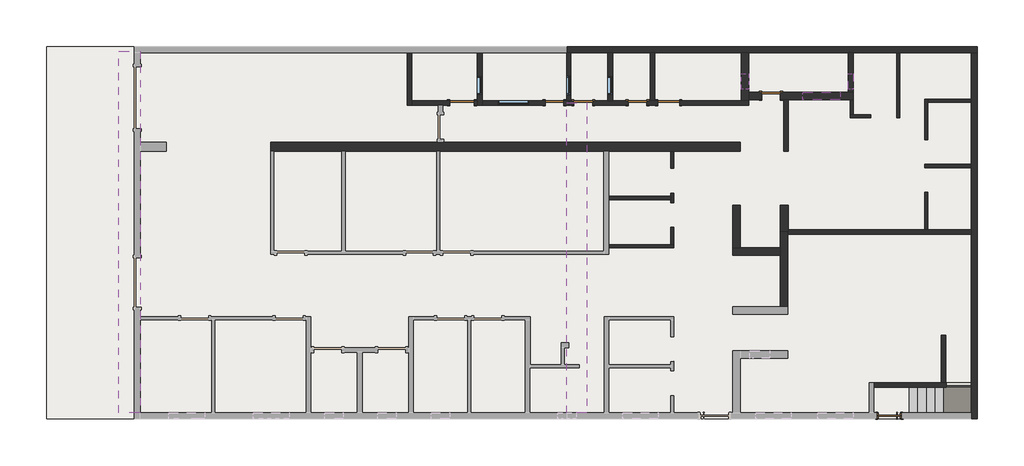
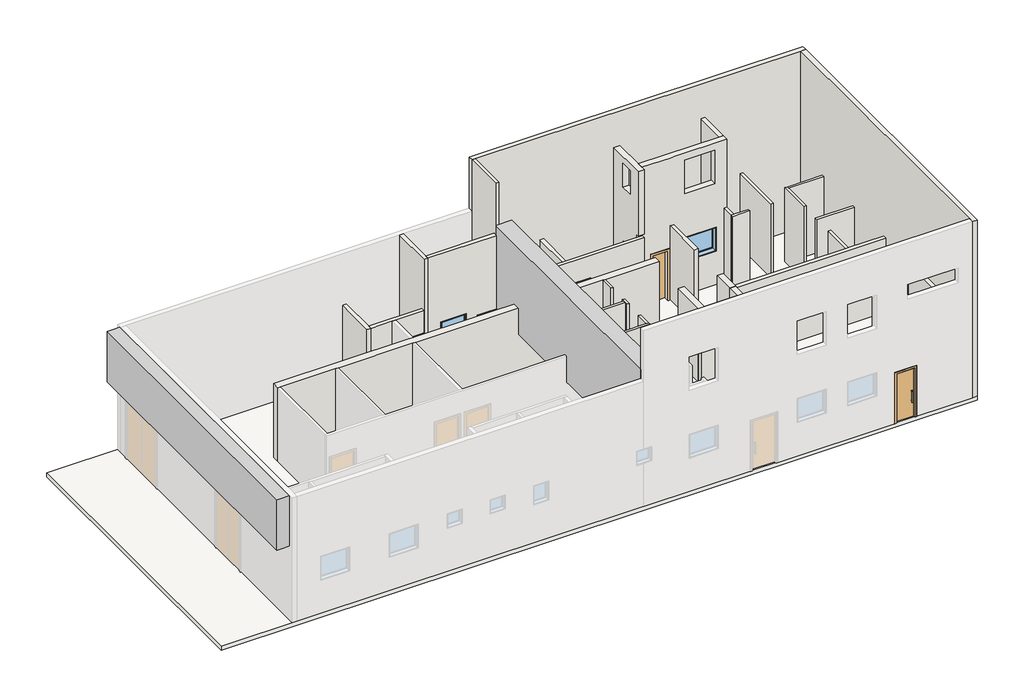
# One storey, part 2 of 2: 35 walls, 7 doors, 7 windows, 2 proxies, 2 slabs, 2 stair flights.
"""IFC4 building model written with IfcOpenShell, lengths in millimetres."""

from ifc_helpers import new_model, si_unit, frame, origin, origin_with_axes, place, context, project, spatial, polyline, outline, extrude, faceted_brep, transform, mapped, element, save
from components import door_0600_x_2100mm_a66e64d3, door_0600_x_2100mm_8e608217, door_0600_x_2100mm_1f371edd, door_0700_x_2100mm_6c6cf384, door_0800_x_2100mm_905e31af, door_800_x_2100mm_d9766a97, m_fixo_0500_x_0800mm_7025a06e, m_fixo_0500_x_1000mm_290372b0, m_fixo_0600_x_0600mm_04081112, m_fixo_0600_x_0600mm_ee7814f6, m_fixo_1000_x_1400mm_36906248, m_fixo_1200_x_1000mm_5e5a1228

model = new_model("IFC4")

# Units and contexts
model_context = context("Model", 3, world=origin())
ifc_project = project(units=[si_unit("LENGTHUNIT", "METRE", prefix="MILLI")], contexts=[model_context])

# Site, building, storey
site = spatial("IfcSite", under=ifc_project)
building = spatial("IfcBuilding", under=site)
storey = spatial("IfcBuildingStorey", under=building, Name="01 - Térreo", Elevation=0.0)

# Proxies
placement = place(None, origin())
element("IfcBuildingElementProxy", 1, Name="Telha Metálica 01 : Telha Metálica 01", ObjectType="Telha Metálica 01 : Telha Metálica 01", at=placement, inside=storey, context=model_context, shape_type="SweptSolid", body=[
    extrude(outline(polyline([(7611.7086902, 24250.184934), (8308.0550909, 24250.184934), (8308.0550909, 12604.5156998), (7611.7086902, 12604.5156998), (7611.7086902, 24250.184934)])), frame((0.0, 0.0, 3100.0), z_axis=(0.0, 0.0, 1.0), x_axis=(1.0, 0.0, 0.0)), (0.0, 0.0, 1.0), 2126.8049149),
])
element("IfcBuildingElementProxy", 2, Name="Telha Metálica 03 : Telha Metálica 03", ObjectType="Telha Metálica 03 : Telha Metálica 03", at=placement, inside=storey, context=model_context, shape_type="SweptSolid", body=[
    extrude(outline(polyline([(22700.6738472, 22588.302475), (22700.6738472, 12603.6406551), (22051.1496531, 12603.6406551), (22051.1496531, 22588.302475), (22700.6738472, 22588.302475)])), frame((0.0, 0.0, 2015.9603064), z_axis=(0.0, 0.0, 1.0), x_axis=(1.0, 0.0, 0.0)), (0.0, 0.0, 1.0), 3612.3357451),
])

# Doors
door_0600_x_2100mm_shape = door_0600_x_2100mm_a66e64d3(model_context)
element("IfcDoor", 3, ObjectType="M_Folha única : 0600 x 2100mm", at=placement, inside=storey, context=model_context, shape_type="MappedRepresentation", body=[
    mapped(door_0600_x_2100mm_shape, transform((21657.8001052, 22588.302475, 0.0), x_axis=(1.0, 0.0, 0.0), y_axis=(0.0, 1.0, 0.0), z_axis=(0.0, 0.0, 1.0))),
])
element("IfcDoor", 4, ObjectType="M_Folha única : 0600 x 2100mm", at=placement, inside=storey, context=model_context, shape_type="MappedRepresentation", body=[
    mapped(door_0600_x_2100mm_shape, transform((24335.7834858, 22588.3027355, 0.0), x_axis=(0.9999999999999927, 1.2128095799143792e-07, 0.0), y_axis=(-1.2128095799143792e-07, 0.9999999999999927, 0.0), z_axis=(0.0, 0.0, 1.0))),
])
door_0600_x_2100mm_2_shape = door_0600_x_2100mm_8e608217(model_context)
element("IfcDoor", 5, ObjectType="M_Folha única : 0600 x 2100mm", at=placement, inside=storey, context=model_context, shape_type="MappedRepresentation", body=[
    mapped(door_0600_x_2100mm_2_shape, transform((22584.8412914, 22588.3025231, 0.0), x_axis=(-0.9999999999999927, -1.2128095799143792e-07, 0.0), y_axis=(1.2128095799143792e-07, -0.9999999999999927, 0.0), z_axis=(0.0, 0.0, 1.0))),
])
door_0600_x_2100mm_3_shape = door_0600_x_2100mm_1f371edd(model_context)
element("IfcDoor", 6, ObjectType="M_Folha única : 0600 x 2100mm", at=placement, inside=storey, context=model_context, shape_type="MappedRepresentation", body=[
    mapped(door_0600_x_2100mm_3_shape, transform((28637.8579177, 22813.0875158, 0.0), x_axis=(1.0, 0.0, 0.0), y_axis=(0.0, 1.0, 0.0), z_axis=(0.0, 0.0, 1.0))),
])
door_0700_x_2100mm_shape = door_0700_x_2100mm_6c6cf384(model_context)
element("IfcDoor", 7, ObjectType="M_Folha única : 0700 x 2100mm", at=placement, inside=storey, context=model_context, shape_type="MappedRepresentation", body=[
    mapped(door_0700_x_2100mm_shape, transform((25337.915926, 22588.302857, 0.0), x_axis=(-0.9999999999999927, -1.2128095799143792e-07, 0.0), y_axis=(1.2128095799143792e-07, -0.9999999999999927, 0.0), z_axis=(0.0, 0.0, 1.0))),
])
door_0800_x_2100mm_shape = door_0800_x_2100mm_905e31af(model_context)
element("IfcDoor", 8, ObjectType="M_Folha única : 0800 x 2100mm", at=placement, inside=storey, context=model_context, shape_type="MappedRepresentation", body=[
    mapped(door_0800_x_2100mm_shape, transform((18678.4670504, 22588.3218908, 0.0), x_axis=(1.0, 0.0, 0.0), y_axis=(0.0, 1.0, 0.0), z_axis=(0.0, 0.0, 1.0))),
])
door_800_x_2100mm_shape = door_800_x_2100mm_d9766a97(model_context)
element("IfcDoor", 9, ObjectType="Porta pivotante simples com revestimento : 800 x 2100mm", at=placement, inside=storey, context=model_context, shape_type="MappedRepresentation", body=[
    mapped(door_800_x_2100mm_shape, transform((32447.1001907, 12503.3788018, 0.0), x_axis=(-0.9999999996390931, 2.686659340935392e-05, 0.0), y_axis=(-2.686659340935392e-05, -0.9999999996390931, 0.0), z_axis=(0.0, 0.0, 1.0))),
])

# Slabs
element("IfcSlab", 10, ObjectType="Genérico 150 mm", at=placement, inside=storey, context=model_context, shape_type="SweptSolid", body=[
    extrude(outline(polyline([(5287.8640677, 24403.3033976), (35288.0559474, 24403.3033976), (35288.0559474, 12403.7312658), (5287.8640677, 12403.7312658), (5287.8640677, 24403.3033976)])), frame((0.0, 0.0, -150.0), z_axis=(0.0, 0.0, 1.0), x_axis=(1.0, 0.0, 0.0)), (0.0, 0.0, 1.0), 150.0),
])
element("IfcSlab", 11, ObjectType="Espessura de 300mm", at=placement, inside=storey, context=model_context, shape_type="Brep", body=[
    faceted_brep([(34207.1313552, 13403.3653677, 1354.1666667), (34207.1313552, 12603.3653677, 1354.1666667), (34392.7293388, 12603.3653677, 1354.1666667), (35088.0559474, 12603.3653677, 1354.1666667), (35088.0559474, 13328.9314414, 1354.1666667), (35088.0559474, 13423.3334577, 1354.1666667), (34288.0559474, 13423.3334577, 1354.1666667), (34288.0559474, 13403.3653677, 1354.1666667), (34207.1313552, 13403.3653677, 1083.3333333), (34207.1313552, 13403.3653677, 874.6448075), (34207.1313552, 12603.3653677, 874.6448075), (34207.1313552, 12603.3653677, 1083.3333333), (34392.7293388, 12603.3653677, 1054.1666667), (35088.0559474, 12603.3653677, 1054.1666667), (35088.0559474, 13328.9314414, 1054.1666667), (35088.0559474, 13423.3334577, 1145.4781408), (34288.0559474, 13423.3334577, 1145.4781408), (34288.0559474, 13403.3653677, 1126.163768), (34392.7293388, 13403.3653677, 1126.163768), (34392.7293388, 13403.3653677, 1054.1666667), (34392.7293388, 13328.9314414, 1054.1666667)], [[[0, 1, 2, 3, 4, 5, 6, 7]], [[1, 0, 8, 9, 10, 11]], [[1, 11, 10, 12, 13, 3, 2]], [[3, 13, 14, 15, 5, 4]], [[6, 5, 15, 16]], [[7, 6, 16, 17]], [[0, 7, 17, 18, 19, 9, 8]], [[12, 20, 14, 13]], [[9, 19, 20, 12, 10]], [[20, 19, 18]], [[14, 20, 18, 17, 16, 15]]]),
])

# Stair flights
element("IfcStairFlight", 12, ObjectType="Profundidade de 150mm", at=placement, inside=storey, context=model_context, shape_type="Brep", body=[
    faceted_brep([(33367.1313552, 13403.3653677, 270.8333333), (33087.1313552, 13403.3653677, 270.8333333), (33087.1313552, 12603.3653677, 270.8333333), (33367.1313552, 12603.3653677, 270.8333333), (33367.1313552, 13403.3653677, 62.1448075), (33302.883185, 13403.3653677, 0.0), (33087.1313552, 13403.3653677, 0.0), (33087.1313552, 12603.3653677, 0.0), (33302.883185, 12603.3653677, 0.0), (33367.1313552, 12603.3653677, 62.1448075), (33647.1313552, 13403.3653677, 541.6666667), (33367.1313552, 13403.3653677, 541.6666667), (33367.1313552, 12603.3653677, 541.6666667), (33647.1313552, 12603.3653677, 541.6666667), (33647.1313552, 13403.3653677, 332.9781408), (33647.1313552, 12603.3653677, 332.9781408), (33927.1313552, 13403.3653677, 812.5), (33647.1313552, 13403.3653677, 812.5), (33647.1313552, 12603.3653677, 812.5), (33927.1313552, 12603.3653677, 812.5), (33927.1313552, 13403.3653677, 603.8114741), (33927.1313552, 12603.3653677, 603.8114741), (34207.1313552, 13403.3653677, 1083.3333333), (33927.1313552, 13403.3653677, 1083.3333333), (33927.1313552, 12603.3653677, 1083.3333333), (34207.1313552, 12603.3653677, 1083.3333333), (34207.1313552, 13403.3653677, 874.6448075), (34207.1313552, 12603.3653677, 874.6448075)], [[[0, 1, 2, 3]], [[1, 0, 4, 5, 6]], [[2, 1, 6, 7]], [[3, 2, 7, 8, 9]], [[10, 11, 12, 13]], [[11, 10, 14, 4, 0]], [[0, 3, 12, 11]], [[13, 12, 3, 9, 15]], [[16, 17, 18, 19]], [[17, 16, 20, 14, 10]], [[10, 13, 18, 17]], [[19, 18, 13, 15, 21]], [[22, 23, 24, 25]], [[23, 22, 26, 20, 16]], [[16, 19, 24, 23]], [[25, 24, 19, 21, 27]], [[22, 25, 27, 26]], [[7, 6, 5, 8]], [[8, 5, 4, 14, 20, 26, 27, 21, 15, 9]]]),
])
element("IfcStairFlight", 13, ObjectType="Profundidade de 150mm", at=placement, inside=storey, context=model_context, shape_type="Brep", body=[
    faceted_brep([(34288.0559474, 13703.3334577, 1625.0), (34288.0559474, 13423.3334577, 1625.0), (35088.0559474, 13423.3334577, 1625.0), (35088.0559474, 13703.3334577, 1625.0), (34288.0559474, 13703.3334577, 1416.3114741), (34288.0559474, 13423.3334577, 1145.4781408), (34288.0559474, 13423.3334577, 1354.1666667), (35088.0559474, 13423.3334577, 1145.4781408), (35088.0559474, 13423.3334577, 1354.1666667), (35088.0559474, 13703.3334577, 1416.3114741), (34288.0559474, 13983.3334577, 1895.8333333), (34288.0559474, 13703.3334577, 1895.8333333), (35088.0559474, 13703.3334577, 1895.8333333), (35088.0559474, 13983.3334577, 1895.8333333), (34288.0559474, 13983.3334577, 1687.1448075), (35088.0559474, 13983.3334577, 1687.1448075), (34288.0559474, 14263.3334577, 2166.6666667), (34288.0559474, 13983.3334577, 2166.6666667), (35088.0559474, 13983.3334577, 2166.6666667), (35088.0559474, 14263.3334577, 2166.6666667), (34288.0559474, 14263.3334577, 1957.9781408), (35088.0559474, 14263.3334577, 1957.9781408), (34288.0559474, 14543.3334577, 2437.5), (34288.0559474, 14263.3334577, 2437.5), (35088.0559474, 14263.3334577, 2437.5), (35088.0559474, 14543.3334577, 2437.5), (34288.0559474, 14543.3334577, 2228.8114741), (35088.0559474, 14543.3334577, 2228.8114741), (34288.0559474, 14823.3334577, 2708.3333333), (34288.0559474, 14543.3334577, 2708.3333333), (35088.0559474, 14543.3334577, 2708.3333333), (35088.0559474, 14823.3334577, 2708.3333333), (34288.0559474, 14823.3334577, 2499.6448075), (35088.0559474, 14823.3334577, 2499.6448075), (34288.0559474, 15103.3334577, 2979.1666667), (34288.0559474, 14823.3334577, 2979.1666667), (35088.0559474, 14823.3334577, 2979.1666667), (35088.0559474, 15103.3334577, 2979.1666667), (34288.0559474, 15103.3334577, 2770.4781408), (35088.0559474, 15103.3334577, 2770.4781408)], [[[0, 1, 2, 3]], [[1, 0, 4, 5, 6]], [[2, 1, 6, 5, 7, 8]], [[3, 2, 8, 7, 9]], [[10, 11, 12, 13]], [[11, 10, 14, 4, 0]], [[12, 11, 0, 3]], [[13, 12, 3, 9, 15]], [[16, 17, 18, 19]], [[17, 16, 20, 14, 10]], [[18, 17, 10, 13]], [[19, 18, 13, 15, 21]], [[22, 23, 24, 25]], [[23, 22, 26, 20, 16]], [[24, 23, 16, 19]], [[25, 24, 19, 21, 27]], [[28, 29, 30, 31]], [[29, 28, 32, 26, 22]], [[30, 29, 22, 25]], [[31, 30, 25, 27, 33]], [[34, 35, 36, 37]], [[35, 34, 38, 32, 28]], [[36, 35, 28, 31]], [[37, 36, 31, 33, 39]], [[34, 37, 39, 38]], [[5, 4, 14, 20, 26, 32, 38, 39, 33, 27, 21, 15, 9, 7]]]),
])

# Walls
element("IfcWall", 14, ObjectType="Genérico - 150 mm", at=placement, inside=storey, context=model_context, shape_type="Brep", body=[
    faceted_brep([(19171.6204029, 24203.302475, 0.0), (19171.5790289, 22663.3218908, 0.0), (19171.5749984, 22513.302475, 0.0), (19171.5749984, 22513.302475, 3100.0), (19171.5749984, 22513.302475, 5250.0), (19171.6204029, 24203.302475, 5250.0), (19171.6002577, 23453.4798623, 915.0), (19171.6002577, 23453.4798623, 1515.0), (19171.5841378, 22853.4798625, 1515.0), (19171.5841378, 22853.4798625, 915.0), (19321.620403, 24203.302475, 0.0), (19321.620403, 24203.302475, 5250.0), (19321.5790284, 22663.302475, 5250.0), (19321.5749984, 22513.302475, 5250.0), (19321.5749984, 22513.302475, 0.0), (19321.5790284, 22663.302475, 0.0), (19321.6002577, 23453.4758323, 915.0), (19321.5841377, 22853.4758325, 915.0), (19321.5841377, 22853.4758325, 1515.0), (19321.6002577, 23453.4758323, 1515.0)], [[[0, 1, 2, 3, 4, 5], [6, 7, 8, 9]], [[10, 11, 12, 13, 14, 15], [16, 17, 18, 19]], [[2, 1, 0, 10, 15, 14]], [[5, 4, 13, 12, 11]], [[2, 14, 13, 4, 3]], [[7, 6, 16, 19]], [[8, 7, 19, 18]], [[9, 8, 18, 17]], [[6, 9, 17, 16]], [[0, 5, 11, 10]]]),
])
element("IfcWall", 15, ObjectType="Genérico - 150 mm", at=placement, inside=storey, context=model_context, shape_type="Brep", body=[
    faceted_brep([(21957.8001052, 22513.302475, 2100.0), (21957.8001052, 22513.302475, 0.0), (22116.1496531, 22513.302475, 0.0), (22116.1496531, 22513.302475, 3100.0), (22181.1496531, 22513.302475, 3100.0), (22181.1496531, 22513.302475, 3250.0), (22181.1496531, 22513.302475, 5250.0), (22051.1496531, 22513.302475, 5250.0), (19321.5749984, 22513.302475, 5250.0), (19321.5749984, 22513.302475, 0.0), (21357.8001052, 22513.302475, 0.0), (21357.8001052, 22513.302475, 2100.0), (20836.3574034, 22513.302475, 1000.0), (19836.3574034, 22513.302475, 1000.0), (19836.3574034, 22513.302475, 2400.0), (20836.3574034, 22513.302475, 2400.0), (22116.1496531, 22663.302475, 0.0), (21957.8001052, 22663.302475, 0.0), (21957.8001052, 22663.302475, 2100.0), (21357.8001052, 22663.302475, 2100.0), (21357.8001052, 22663.302475, 0.0), (19321.5790284, 22663.302475, 0.0), (19321.5790284, 22663.302475, 5250.0), (22051.1496531, 22663.302475, 5250.0), (22181.1496531, 22663.302475, 5250.0), (22181.1496531, 22663.302475, 3100.0), (22116.1496531, 22663.302475, 3100.0), (20836.3574034, 22663.302475, 1000.0), (20836.3574034, 22663.302475, 2400.0), (19836.3574034, 22663.302475, 2400.0), (19836.3574034, 22663.302475, 1000.0), (22181.1496531, 22588.3024663, 5250.0)], [[[0, 1, 2, 3, 4, 5, 6, 7, 8, 9, 10, 11], [12, 13, 14, 15]], [[16, 17, 18, 19, 20, 21, 22, 23, 24, 25, 26], [27, 28, 29, 30]], [[10, 9, 21, 20]], [[2, 1, 17, 16]], [[8, 7, 6, 31, 24, 23, 22]], [[8, 22, 21, 9]], [[18, 17, 1, 0]], [[19, 18, 0, 11]], [[20, 19, 11, 10]], [[28, 27, 12, 15]], [[29, 28, 15, 14]], [[30, 29, 14, 13]], [[27, 30, 13, 12]], [[3, 2, 16, 26]], [[25, 4, 3, 26]], [[4, 25, 24, 31, 6, 5]]]),
])
element("IfcWall", 16, ObjectType="Genérico - 200 mm", at=placement, inside=storey, context=model_context, shape_type="Brep", body=[
    faceted_brep([(22051.1496531, 24203.1812787, 7400.0), (22051.1496531, 24203.1812787, 5250.0), (22051.1496531, 24203.1812787, 0.0), (22181.1496531, 24203.182478, 0.0), (24737.9157302, 24203.2060658, 0.0), (24887.9157302, 24203.2074497, 0.0), (27671.4922791, 24203.2331299, 0.0), (27911.4922793, 24203.2353441, 0.0), (32688.3079177, 24203.2794132, 0.0), (32788.3079177, 24203.2803358, 0.0), (35088.0559474, 24203.3015524, 0.0), (35288.0559474, 24203.3033976, 0.0), (35288.0559474, 24203.3033976, 7400.0), (35088.0559474, 24203.3015524, 7400.0), (22181.1496531, 24203.182478, 7400.0), (22051.1496531, 24403.1812787, 0.0), (22051.1496531, 24403.1812787, 5250.0), (22051.1496531, 24403.1812787, 7400.0), (35288.0559474, 24403.3033976, 7400.0), (35288.0559474, 24403.3033976, 0.0)], [[[0, 1, 2, 3, 4, 5, 6, 7, 8, 9, 10, 11, 12, 13, 14]], [[15, 16, 17, 18, 19]], [[11, 10, 9, 8, 7, 6, 5, 4, 3, 2, 15, 19]], [[0, 14, 13, 12, 18, 17]], [[12, 11, 19, 18]], [[0, 17, 16, 15, 2, 1]]]),
])
element("IfcWall", 17, ObjectType="Genérico - 200 mm", at=placement, inside=storey, context=model_context, shape_type="Brep", body=[
    faceted_brep([(35088.0559474, 24203.3015524, 0.0), (35088.0559474, 22703.8031408, 0.0), (35088.0559474, 22603.8031408, 0.0), (35088.0559474, 20603.5406408, 0.0), (35088.0559474, 20503.5406408, 0.0), (35088.0559474, 18503.2781408, 0.0), (35088.0559474, 18353.2781408, 0.0), (35088.0559474, 13573.3334577, 0.0), (35088.0559474, 13423.3334577, 0.0), (35088.0559474, 12603.3078484, 0.0), (35088.0559474, 12403.3078483, 0.0), (35088.0559474, 12403.3078483, 7400.0), (35088.0559474, 12603.3078484, 7400.0), (35088.0559474, 24203.3015524, 7400.0), (35288.0559474, 24203.3033976, 0.0), (35288.0559474, 24203.3033976, 7400.0), (35288.0559474, 12403.302475, 7400.0), (35288.0559474, 12403.302475, 0.0)], [[[0, 1, 2, 3, 4, 5, 6, 7, 8, 9, 10, 11, 12, 13]], [[14, 15, 16, 17]], [[10, 9, 8, 7, 6, 5, 4, 3, 2, 1, 0, 14, 17]], [[13, 12, 11, 16, 15]], [[0, 13, 15, 14]], [[11, 10, 17, 16]]]),
])
element("IfcWall", 18, ObjectType="Genérico - 290 mm", at=placement, inside=storey, context=model_context, shape_type="Brep", body=[
    faceted_brep([(12507.7969802, 21023.1531408, 0.0), (12607.7969802, 21023.1531408, 0.0), (14808.0969802, 21023.1531408, 0.0), (14908.0969802, 21023.1531408, 0.0), (17857.8829175, 21023.1531408, 0.0), (17957.8829177, 21023.1531408, 0.0), (23251.2115271, 21023.1531408, 0.0), (23401.2115271, 21023.1531408, 0.0), (25401.4802779, 21023.1531408, 0.0), (25501.4802779, 21023.1531408, 0.0), (27644.2126052, 21023.1531408, 0.0), (27644.2126052, 21023.1531408, 3100.0), (25501.4802779, 21023.1531408, 3100.0), (25401.4802779, 21023.1531408, 3100.0), (23401.2115271, 21023.1531408, 3100.0), (23251.2115271, 21023.1531408, 3100.0), (17957.8829177, 21023.1531408, 3100.0), (17857.8829175, 21023.1531408, 3100.0), (14908.0969802, 21023.1531408, 3100.0), (14808.0969802, 21023.1531408, 3100.0), (12607.7969802, 21023.1531408, 3100.0), (12507.7969802, 21023.1531408, 3100.0), (12507.7969802, 21313.1531408, 0.0), (12507.7969802, 21313.1531408, 3100.0), (17907.3066877, 21313.1531408, 3100.0), (18057.3067058, 21313.1531408, 3100.0), (27644.2126052, 21313.1531408, 3100.0), (27644.2126052, 21313.1531408, 0.0), (18057.3067058, 21313.1531408, 0.0), (17907.3066877, 21313.1531408, 0.0)], [[[0, 1, 2, 3, 4, 5, 6, 7, 8, 9, 10, 11, 12, 13, 14, 15, 16, 17, 18, 19, 20, 21]], [[22, 23, 24, 25, 26, 27, 28, 29]], [[10, 9, 8, 7, 6, 5, 4, 3, 2, 1, 0, 22, 29, 28, 27]], [[11, 10, 27, 26]], [[21, 20, 19, 18, 17, 16, 15, 14, 13, 12, 11, 26, 25, 24, 23]], [[0, 21, 23, 22]]]),
])
element("IfcWall", 19, ObjectType="Genérico - 240 mm", at=placement, inside=storey, context=model_context, shape_type="Brep", body=[
    faceted_brep([(28937.7376052, 17922.9375158, 0.0), (27641.0516739, 17922.9375158, 0.0), (27401.0516739, 17922.9375158, 0.0), (27401.0516739, 17922.9375158, 3100.0), (27641.0516739, 17922.9375158, 3100.0), (28937.7376052, 17922.9375158, 3100.0), (28937.7376052, 17682.9375158, 0.0), (28937.7376052, 17682.9375158, 3100.0), (27401.0452259, 17682.9375158, 3100.0), (27401.0452259, 17682.9375158, 0.0)], [[[0, 1, 2, 3, 4, 5]], [[6, 7, 8, 9]], [[2, 1, 0, 6, 9]], [[5, 4, 3, 8, 7]], [[3, 2, 9, 8]], [[0, 5, 7, 6]]]),
])
element("IfcWall", 20, ObjectType="Genérico - 240 mm", at=placement, inside=storey, context=model_context, shape_type="SweptSolid", body=[
    extrude(outline(polyline([(27641.0885031, 19293.7516971), (27641.0516739, 17922.9375158), (27401.0516739, 17922.9375158), (27401.0885031, 19293.7581451), (27641.0885031, 19293.7516971)])), origin_with_axes(), (0.0, 0.0, 1.0), 3100.0),
])
element("IfcWall", 21, ObjectType="Genérico - 240 mm", at=placement, inside=storey, context=model_context, shape_type="Brep", body=[
    faceted_brep([(29177.7376052, 16023.8906408, 0.0), (29177.7376052, 18353.2781408, 0.0), (29177.7376052, 18428.2781408, 0.0), (29177.7376052, 18428.2781408, 3100.0), (29177.7376052, 18353.2781408, 3100.0), (29177.7376052, 16023.8906408, 3100.0), (28937.7376052, 16023.8906408, 0.0), (28937.7376052, 16023.8906408, 3100.0), (28937.7376052, 17682.9375158, 3100.0), (28937.7376052, 17922.9375158, 3100.0), (28937.7376052, 18428.2781408, 3100.0), (28937.7376052, 18428.2781408, 0.0), (28937.7376052, 17922.9375158, 0.0), (28937.7376052, 17682.9375158, 0.0)], [[[0, 1, 2, 3, 4, 5]], [[6, 7, 8, 9, 10, 11, 12, 13]], [[2, 1, 0, 6, 13, 12, 11]], [[3, 2, 11, 10]], [[5, 4, 3, 10, 9, 8, 7]], [[0, 5, 7, 6]]]),
])
element("IfcWall", 22, ObjectType="Genérico - 250 mm", at=placement, inside=storey, context=model_context, shape_type="Brep", body=[
    faceted_brep([(28937.8579177, 19293.8531408, 0.0), (28937.8579177, 18428.2781408, 0.0), (28937.8579177, 18428.2781408, 3100.0), (28937.8579177, 19293.8531408, 3100.0), (29187.8579177, 19293.8531408, 0.0), (29187.8579177, 19293.8531408, 3100.0), (29187.8579177, 18503.2781408, 3100.0), (29187.8579177, 18428.2781408, 3100.0), (29187.8579177, 18428.2781408, 0.0), (29187.8579177, 18503.2781408, 0.0), (29177.7376052, 18428.2781408, 0.0), (29177.7376052, 18428.2781408, 3100.0)], [[[0, 1, 2, 3]], [[4, 5, 6, 7, 8, 9]], [[1, 0, 4, 9, 8, 10]], [[2, 1, 10, 8, 7, 11]], [[3, 2, 11, 7, 6, 5]], [[0, 3, 5, 4]]]),
])
element("IfcWall", 23, ObjectType="Genérico - 150 mm", at=placement, inside=storey, context=model_context, shape_type="Brep", body=[
    faceted_brep([(29177.7376052, 18353.2781408, 0.0), (35088.0559474, 18353.2781408, 0.0), (35088.0559474, 18353.2781408, 3100.0), (29177.7376052, 18353.2781408, 3100.0), (29187.8579177, 18503.2781408, 0.0), (29187.8579177, 18503.2781408, 3100.0), (33587.8126052, 18503.2781408, 3100.0), (33687.8126052, 18503.2781408, 3100.0), (35088.0559474, 18503.2781408, 3100.0), (35088.0559474, 18503.2781408, 0.0), (33687.8126052, 18503.2781408, 0.0), (33587.8126052, 18503.2781408, 0.0), (29177.7376052, 18428.2781408, 0.0), (29187.8579177, 18428.2781408, 0.0), (29187.8579177, 18428.2781408, 3100.0), (29177.7376052, 18428.2781408, 3100.0)], [[[0, 1, 2, 3]], [[4, 5, 6, 7, 8, 9, 10, 11]], [[1, 0, 12, 13, 4, 11, 10, 9]], [[3, 2, 8, 7, 6, 5, 14, 15]], [[0, 3, 15, 12]], [[15, 14, 13, 12]], [[14, 5, 4, 13]], [[2, 1, 9, 8]]]),
])
element("IfcWall", 24, ObjectType="Genérico - 100 mm", at=placement, inside=storey, context=model_context, shape_type="SweptSolid", body=[
    extrude(outline(polyline([(33687.8126052, 19703.4281408), (33687.8126052, 18503.2781408), (33587.8126052, 18503.2781408), (33587.8126052, 19703.4281408), (33687.8126052, 19703.4281408)])), origin_with_axes(), (0.0, 0.0, 1.0), 3100.0),
])
element("IfcWall", 25, ObjectType="Genérico - 100 mm", at=placement, inside=storey, context=model_context, shape_type="SweptSolid", body=[
    extrude(outline(polyline([(35088.0559474, 20503.5406408), (33587.8126052, 20503.5406408), (33587.8126052, 20603.5406408), (35088.0559474, 20603.5406408), (35088.0559474, 20503.5406408)])), origin_with_axes(), (0.0, 0.0, 1.0), 3100.0),
])
element("IfcWall", 26, ObjectType="Genérico - 100 mm", at=placement, inside=storey, context=model_context, shape_type="Brep", body=[
    faceted_brep([(33687.8126052, 21403.6406408, 0.0), (33687.8126052, 22603.8031408, 0.0), (33687.8126052, 22703.8031408, 0.0), (33687.8126052, 22703.8031408, 3100.0), (33687.8126052, 22603.8031408, 3100.0), (33687.8126052, 21403.6406408, 3100.0), (33587.8126052, 21403.6406408, 0.0), (33587.8126052, 21403.6406408, 3100.0), (33587.8126052, 22703.8031408, 3100.0), (33587.8126052, 22703.8031408, 0.0)], [[[0, 1, 2, 3, 4, 5]], [[6, 7, 8, 9]], [[2, 1, 0, 6, 9]], [[5, 4, 3, 8, 7]], [[0, 5, 7, 6]], [[3, 2, 9, 8]]]),
])
element("IfcWall", 27, ObjectType="Genérico - 100 mm", at=placement, inside=storey, context=model_context, shape_type="SweptSolid", body=[
    extrude(outline(polyline([(35088.0559474, 22603.8031408), (33687.8126052, 22603.8031408), (33687.8126052, 22703.8031408), (35088.0559474, 22703.8031408), (35088.0559474, 22603.8031408)])), origin_with_axes(), (0.0, 0.0, 1.0), 3100.0),
])
element("IfcWall", 28, ObjectType="Genérico - 100 mm", at=placement, inside=storey, context=model_context, shape_type="SweptSolid", body=[
    extrude(outline(polyline([(32688.3079177, 22103.7281408), (32688.3079177, 24203.2794132), (32788.3079177, 24203.2803358), (32788.3079177, 22103.7281408), (32688.3079177, 22103.7281408)])), origin_with_axes(), (0.0, 0.0, 1.0), 3100.0),
])
element("IfcWall", 29, ObjectType="Genérico - 100 mm", at=placement, inside=storey, context=model_context, shape_type="Brep", body=[
    faceted_brep([(31856.5170901, 22203.513439, 0.0), (31281.3997172, 22203.7109733, 0.0), (31181.3997172, 22203.7453201, 0.0), (31181.3997172, 22203.7453201, 3100.0), (31281.3997172, 22203.7109733, 3100.0), (31856.5170901, 22203.513439, 3100.0), (31856.4827433, 22103.5134449, 0.0), (31856.4827433, 22103.5134449, 3100.0), (31181.3997172, 22103.7453142, 3100.0), (31181.3997172, 22103.7453142, 0.0)], [[[0, 1, 2, 3, 4, 5]], [[6, 7, 8, 9]], [[2, 1, 0, 6, 9]], [[5, 4, 3, 8, 7]], [[0, 5, 7, 6]], [[3, 2, 9, 8]]]),
])
element("IfcWall", 30, ObjectType="Genérico - 100 mm", at=placement, inside=storey, context=model_context, shape_type="SweptSolid", body=[
    extrude(outline(polyline([(31281.3997172, 22693.0875158), (31281.3997172, 22203.7109733), (31181.3997172, 22203.7453201), (31181.3997172, 22693.0875158), (31281.3997172, 22693.0875158)])), origin_with_axes(), (0.0, 0.0, 1.0), 3100.0),
])
element("IfcWall", 31, ObjectType="Genérico - 150 mm", at=placement, inside=storey, context=model_context, shape_type="Brep", body=[
    faceted_brep([(31131.4672803, 24202.6718359, 0.0), (31130.8657799, 22933.0875158, 0.0), (31130.8657799, 22933.0875158, 5950.0), (31131.4672803, 24202.6718359, 5950.0), (31131.1491116, 23531.1145058, 1600.0), (31131.1491116, 23531.1145058, 2400.0), (31130.9122229, 23031.1145619, 2400.0), (31130.9122229, 23031.1145619, 1600.0), (31281.4672634, 24202.6007693, 0.0), (31281.4672634, 24202.6007693, 5950.0), (31280.8657968, 22933.0875158, 5950.0), (31280.8657968, 22933.0875158, 0.0), (31281.1490948, 23531.0434392, 1600.0), (31280.9122061, 23031.0434953, 1600.0), (31280.9122061, 23031.0434953, 2400.0), (31281.1490948, 23531.0434392, 2400.0)], [[[0, 1, 2, 3], [4, 5, 6, 7]], [[8, 9, 10, 11], [12, 13, 14, 15]], [[1, 0, 8, 11]], [[0, 3, 9, 8]], [[5, 4, 12, 15]], [[6, 5, 15, 14]], [[7, 6, 14, 13]], [[4, 7, 13, 12]], [[2, 1, 11, 10]], [[3, 2, 10, 9]]]),
])
element("IfcWall", 32, ObjectType="Genérico - 240 mm", at=placement, inside=storey, context=model_context, shape_type="Brep", body=[
    faceted_brep([(27671.4922791, 24203.2331299, 0.0), (27671.4509064, 22663.30314, 0.0), (27671.4509064, 22663.30314, 3250.0), (27671.447411, 22533.1995753, 3250.0), (27671.447411, 22533.1995753, 5950.0), (27671.4509037, 22663.1995753, 5950.0), (27671.4922791, 24203.2331299, 5950.0), (27671.4607902, 23031.1852575, 1420.0), (27671.4742235, 23531.1852573, 1420.0), (27671.4742235, 23531.1852573, 2420.0), (27671.4607902, 23031.1852575, 2420.0), (27671.4752962, 23571.1121658, 4670.0), (27671.4752962, 23571.1121658, 5670.0), (27671.4618629, 23071.112166, 5670.0), (27671.4618629, 23071.112166, 4670.0), (27911.4922793, 24203.2353441, 0.0), (27911.4922793, 24203.2353441, 5950.0), (27911.4581547, 22933.0875158, 5950.0), (27911.4517067, 22693.0875158, 5950.0), (27911.4474111, 22533.1995753, 5950.0), (27911.4474111, 22533.1995753, 3250.0), (27911.4509065, 22663.3031691, 3250.0), (27911.4509065, 22663.3031691, 3100.0), (27911.4509065, 22663.3031691, 0.0), (27911.4517067, 22693.0875158, 0.0), (27911.4581547, 22933.0875158, 0.0), (27911.4607901, 23031.1788095, 1420.0), (27911.4607901, 23031.1788095, 2420.0), (27911.4742234, 23531.1788093, 2420.0), (27911.4742234, 23531.1788093, 1420.0), (27911.4752961, 23571.1057178, 4670.0), (27911.4618628, 23071.105718, 4670.0), (27911.4618628, 23071.105718, 5670.0), (27911.4752961, 23571.1057178, 5670.0)], [[[0, 1, 2, 3, 4, 5, 6], [7, 8, 9, 10], [11, 12, 13, 14]], [[15, 16, 17, 18, 19, 20, 21, 22, 23, 24, 25], [26, 27, 28, 29], [30, 31, 32, 33]], [[1, 0, 15, 25, 24, 23]], [[0, 6, 16, 15]], [[27, 26, 7, 10]], [[28, 27, 10, 9]], [[29, 28, 9, 8]], [[26, 29, 8, 7]], [[20, 3, 2, 21]], [[2, 1, 23, 22, 21]], [[4, 3, 20, 19]], [[12, 11, 30, 33]], [[13, 12, 33, 32]], [[14, 13, 32, 31]], [[11, 14, 31, 30]], [[6, 5, 4, 19, 18, 17, 16]]]),
])
element("IfcWall", 33, ObjectType="Genérico - 150 mm", at=placement, inside=storey, context=model_context, shape_type="Brep", body=[
    faceted_brep([(24987.9159169, 22663.3028146, 2100.0), (24987.9159169, 22663.3028146, 0.0), (24887.9157302, 22663.3028024, 0.0), (24737.9157302, 22663.3027842, 0.0), (24635.7834767, 22663.3027719, 0.0), (24635.7834767, 22663.3027719, 2100.0), (24035.7834767, 22663.3026991, 2100.0), (24035.7834767, 22663.3026991, 0.0), (23531.6290299, 22663.3026379, 0.0), (23381.6290299, 22663.3026198, 0.0), (22884.8412823, 22663.3025595, 0.0), (22884.8412823, 22663.3025595, 2100.0), (22284.8412823, 22663.3024867, 2100.0), (22284.8412823, 22663.3024867, 0.0), (22181.1496531, 22663.3024742, 0.0), (22116.1496441, 22663.3024663, 0.0), (22116.1496441, 22663.3024663, 3100.0), (23381.6290299, 22663.3026198, 3100.0), (23531.6290299, 22663.3026379, 3100.0), (24737.9157302, 22663.3027842, 3100.0), (24887.9157302, 22663.3028024, 3100.0), (27911.4509065, 22663.3031691, 3100.0), (27911.4509065, 22663.3031691, 0.0), (27671.4509064, 22663.30314, 0.0), (25687.9159169, 22663.3028995, 0.0), (25687.9159169, 22663.3028995, 2100.0), (24635.7834949, 22513.3027719, 0.0), (24987.9159351, 22513.3028146, 0.0), (24987.9159351, 22513.3028146, 2100.0), (25687.9159351, 22513.3028995, 2100.0), (25687.9159351, 22513.3028995, 0.0), (27911.4468765, 22513.3031691, 0.0), (27911.4468765, 22513.3031691, 3100.0), (22116.1496622, 22513.3024663, 3100.0), (22116.1496622, 22513.3024663, 0.0), (22284.8413005, 22513.3024867, 0.0), (22284.8413005, 22513.3024867, 2100.0), (22884.8413005, 22513.3025595, 2100.0), (22884.8413005, 22513.3025595, 0.0), (24035.7834949, 22513.3026991, 0.0), (24035.7834949, 22513.3026991, 2100.0), (24635.7834949, 22513.3027719, 2100.0)], [[[0, 1, 2, 3, 4, 5, 6, 7, 8, 9, 10, 11, 12, 13, 14, 15, 16, 17, 18, 19, 20, 21, 22, 23, 24, 25]], [[26, 27, 28, 29, 30, 31, 32, 33, 34, 35, 36, 37, 38, 39, 40, 41]], [[39, 38, 10, 9, 8, 7]], [[4, 3, 2, 1, 27, 26]], [[15, 14, 13, 35, 34]], [[24, 23, 22, 31, 30]], [[16, 15, 34, 33]], [[21, 20, 19, 18, 17, 16, 33, 32]], [[22, 21, 32, 31]], [[36, 35, 13, 12]], [[37, 36, 12, 11]], [[38, 37, 11, 10]], [[5, 4, 26, 41]], [[6, 5, 41, 40]], [[7, 6, 40, 39]], [[28, 27, 1, 0]], [[29, 28, 0, 25]], [[30, 29, 25, 24]]]),
])
element("IfcWall", 34, ObjectType="Genérico - 150 mm", at=placement, inside=storey, context=model_context, shape_type="Brep", body=[
    faceted_brep([(23531.6290299, 22663.3026379, 0.0), (23531.6703916, 24202.824065, 0.0), (23531.6703916, 24202.824065, 3100.0), (23531.6290299, 22663.3026379, 3100.0), (23531.6502569, 23453.390613, 915.0), (23531.6341369, 22853.3906132, 915.0), (23531.6341369, 22853.3906132, 1515.0), (23531.6502569, 23453.390613, 1515.0), (23381.6290299, 22663.3026198, 0.0), (23381.6290299, 22663.3026198, 3100.0), (23381.6703917, 24202.828095, 3100.0), (23381.6703917, 24202.828095, 0.0), (23381.650257, 23453.3946429, 915.0), (23381.650257, 23453.3946429, 1515.0), (23381.634137, 22853.3946432, 1515.0), (23381.634137, 22853.3946432, 915.0)], [[[0, 1, 2, 3], [4, 5, 6, 7]], [[8, 9, 10, 11], [12, 13, 14, 15]], [[1, 0, 8, 11]], [[2, 1, 11, 10]], [[3, 2, 10, 9]], [[0, 3, 9, 8]], [[13, 12, 4, 7]], [[14, 13, 7, 6]], [[15, 14, 6, 5]], [[12, 15, 5, 4]]]),
])
element("IfcWall", 35, ObjectType="Genérico - 150 mm", at=placement, inside=storey, context=model_context, shape_type="SweptSolid", body=[
    extrude(outline(polyline([(24887.9157302, 24203.2074497), (24887.9157302, 22663.3028024), (24737.9157302, 22663.3027842), (24737.9157302, 24203.2060658), (24887.9157302, 24203.2074497)])), origin_with_axes(), (0.0, 0.0, 1.0), 3100.0),
])
element("IfcWall", 36, ObjectType="Genérico - 150 mm", at=placement, inside=storey, context=model_context, shape_type="SweptSolid", body=[
    extrude(outline(polyline([(29037.8579177, 21023.8312658), (29037.8579177, 22693.0875158), (29187.8579177, 22693.0875158), (29187.8579177, 21023.8312658), (29037.8579177, 21023.8312658)])), origin_with_axes(), (0.0, 0.0, 1.0), 3100.0),
])
element("IfcWall", 37, ObjectType="Genérico - 100 mm", at=placement, inside=storey, context=model_context, shape_type="Brep", body=[
    faceted_brep([(23401.1282447, 17923.3019488, 0.0), (25501.3969998, 17923.4634296, 0.0), (25501.3969998, 17923.4634296, 3100.0), (23401.1282447, 17923.3019488, 3100.0), (23401.1309314, 18023.3019493, 0.0), (23401.1309314, 18023.3019493, 3100.0), (25401.3996862, 18023.4557415, 3100.0), (25501.3996865, 18023.4634301, 3100.0), (25501.3996865, 18023.4634301, 0.0), (25401.3996862, 18023.4557415, 0.0)], [[[0, 1, 2, 3]], [[4, 5, 6, 7, 8, 9]], [[1, 0, 4, 9, 8]], [[3, 2, 7, 6, 5]], [[0, 3, 5, 4]], [[2, 1, 8, 7]]]),
])
element("IfcWall", 38, ObjectType="Genérico - 100 mm", at=placement, inside=storey, context=model_context, shape_type="SweptSolid", body=[
    extrude(outline(polyline([(25501.4144647, 18573.522512), (25501.3996865, 18023.4634301), (25401.3996862, 18023.4557415), (25401.4144647, 18573.5251986), (25501.4144647, 18573.522512)])), origin_with_axes(), (0.0, 0.0, 1.0), 3100.0),
])
element("IfcWall", 39, ObjectType="Genérico - 100 mm", at=placement, inside=storey, context=model_context, shape_type="SweptSolid", body=[
    extrude(outline(polyline([(25401.4386387, 19473.3036233), (23401.1698973, 19473.6511957), (23401.172584, 19573.6511968), (25401.4413254, 19573.3036244), (25401.4386387, 19473.3036233)])), origin_with_axes(), (0.0, 0.0, 1.0), 3100.0),
])
element("IfcWall", 40, ObjectType="Genérico - 100 mm", at=placement, inside=storey, context=model_context, shape_type="Brep", body=[
    faceted_brep([(25401.4440232, 19673.7210973, 0.0), (25401.4413254, 19573.3036244, 0.0), (25401.4386387, 19473.3036233, 0.0), (25401.4359536, 19373.3610054, 0.0), (25401.4359536, 19373.3610054, 3100.0), (25401.4386387, 19473.3036233, 3100.0), (25401.4413254, 19573.3036244, 3100.0), (25401.4440232, 19673.7210973, 3100.0), (25501.4440232, 19673.7184107, 0.0), (25501.4440232, 19673.7184107, 3100.0), (25501.4359535, 19373.3583187, 3100.0), (25501.4359535, 19373.3583187, 0.0)], [[[0, 1, 2, 3, 4, 5, 6, 7]], [[8, 9, 10, 11]], [[3, 2, 1, 0, 8, 11]], [[4, 3, 11, 10]], [[7, 6, 5, 4, 10, 9]], [[0, 7, 9, 8]]]),
])
element("IfcWall", 41, ObjectType="Genérico - 100 mm", at=placement, inside=storey, context=model_context, shape_type="SweptSolid", body=[
    extrude(outline(polyline([(25401.4655099, 20473.4770628), (25401.4802779, 21023.1531408), (25501.4802779, 21023.1531408), (25501.4655099, 20473.4743761), (25401.4655099, 20473.4770628)])), origin_with_axes(), (0.0, 0.0, 1.0), 3100.0),
])
element("IfcWall", 42, ObjectType="Genérico - 150 mm", at=placement, inside=storey, context=model_context, shape_type="Brep", body=[
    faceted_brep([(16908.0559449, 24203.302475, 0.0), (16907.7426034, 22513.3218908, 0.0), (16907.7426034, 22513.3218908, 3100.0), (16908.0559449, 24203.302475, 3100.0), (17058.0559474, 24203.302475, 0.0), (17058.0559474, 24203.302475, 3100.0), (17057.7704177, 22663.3218908, 3100.0), (17057.742606, 22513.3218908, 3100.0), (17057.742606, 22513.3218908, 0.0), (17057.7704177, 22663.3218908, 0.0)], [[[0, 1, 2, 3]], [[4, 5, 6, 7, 8, 9]], [[1, 0, 4, 9, 8]], [[3, 2, 7, 6, 5]], [[0, 3, 5, 4]], [[2, 1, 8, 7]]]),
])
element("IfcWall", 43, ObjectType="Genérico - 150 mm", at=placement, inside=storey, context=model_context, shape_type="Brep", body=[
    faceted_brep([(19078.4670504, 22513.3218908, 2100.0), (19078.4670504, 22513.3218908, 0.0), (19171.5749989, 22513.3218908, 0.0), (19171.5749989, 22513.3218908, 3100.0), (18057.8954269, 22513.3218908, 3100.0), (17907.8954088, 22513.3218908, 3100.0), (17057.742606, 22513.3218908, 3100.0), (17057.742606, 22513.3218908, 0.0), (17907.8954088, 22513.3218908, 0.0), (18057.8954269, 22513.3218908, 0.0), (18278.4670504, 22513.3218908, 0.0), (18278.4670504, 22513.3218908, 2100.0), (19171.5790289, 22663.3218908, 0.0), (19078.4670504, 22663.3218908, 0.0), (19078.4670504, 22663.3218908, 2100.0), (18278.4670504, 22663.3218908, 2100.0), (18278.4670504, 22663.3218908, 0.0), (17057.7704177, 22663.3218908, 0.0), (17057.7704177, 22663.3218908, 3100.0), (19171.5790289, 22663.3218908, 3100.0)], [[[0, 1, 2, 3, 4, 5, 6, 7, 8, 9, 10, 11]], [[12, 13, 14, 15, 16, 17, 18, 19]], [[2, 1, 13, 12]], [[10, 9, 8, 7, 17, 16]], [[6, 5, 4, 3, 19, 18]], [[3, 2, 12, 19]], [[7, 6, 18, 17]], [[14, 13, 1, 0]], [[15, 14, 0, 11]], [[16, 15, 11, 10]]]),
])
element("IfcWall", 44, ObjectType="Genérico - 150 mm", at=placement, inside=storey, context=model_context, shape_type="Brep", body=[
    faceted_brep([(31947.1313552, 13423.3334577, 0.0), (34288.0559474, 13423.3334577, 0.0), (34288.0559474, 13423.3334577, 1054.1666667), (34288.0559474, 13423.3334577, 3100.0), (31947.1313552, 13423.3334577, 3100.0), (31947.1313552, 13573.3334577, 0.0), (31947.1313552, 13573.3334577, 3100.0), (34288.0559474, 13573.3334577, 3100.0), (34288.0559474, 13573.3334577, 1054.1666667), (34288.0559474, 13573.3334577, 0.0), (34268.0559474, 13573.3334577, 0.0), (34118.0559474, 13573.3334577, 0.0)], [[[0, 1, 2, 3, 4]], [[5, 6, 7, 8, 9, 10, 11]], [[1, 0, 5, 11, 10, 9]], [[3, 2, 1, 9, 8, 7]], [[4, 3, 7, 6]], [[0, 4, 6, 5]]]),
])
element("IfcWall", 45, ObjectType="Genérico - 150 mm", at=placement, inside=storey, context=model_context, shape_type="SweptSolid", body=[
    extrude(outline(polyline([(13573.3334577, 0.0), (13573.3334577, 3250.0), (13423.3334577, 3250.0), (13423.3334577, 4320.0), (15103.3334577, 4320.0), (15103.3334577, 0.0), (13573.3334577, 0.0)])), frame((34118.0559474, 0.0, 0.0), z_axis=(1.0, 0.0, 0.0), x_axis=(0.0, 1.0, 0.0)), (0.0, 0.0, 1.0), 150.0),
])
element("IfcWall", 46, ObjectType="Genérico - 150 mm", at=placement, inside=storey, context=model_context, shape_type="SweptSolid", body=[
    extrude(outline(polyline([(35088.0559474, 13423.3334577), (34288.0559474, 13423.3334577), (34288.0559474, 13573.3334577), (35088.0559474, 13573.3334577), (35088.0559474, 13423.3334577)])), origin_with_axes(), (0.0, 0.0, 1.0), 1054.1666667),
])
element("IfcWall", 47, ObjectType="Genérico - 130 mm", at=placement, inside=storey, context=model_context, shape_type="Brep", body=[
    faceted_brep([(22181.1496531, 22663.3024742, 0.0), (22181.1496531, 24203.182478, 0.0), (22181.1496531, 24203.182478, 7400.0), (22181.1496531, 22588.3024663, 7400.0), (22181.1496531, 22588.3024663, 5250.0), (22181.1496531, 22663.302475, 5250.0), (22181.1496531, 22663.302475, 3100.0), (22181.1496531, 23453.4030363, 915.0), (22181.1496531, 22853.4030363, 915.0), (22181.1496531, 22853.4030363, 1515.0), (22181.1496531, 23453.4030363, 1515.0), (22051.1496531, 22663.3024584, 0.0), (22051.1496531, 22663.3024584, 3100.0), (22051.1496531, 22663.302475, 5250.0), (22051.1496531, 22588.3024663, 5250.0), (22051.1496531, 22588.3024663, 7400.0), (22051.1496531, 24203.1812787, 7400.0), (22051.1496531, 24203.1812787, 0.0), (22051.1496531, 23453.4030363, 915.0), (22051.1496531, 23453.4030363, 1515.0), (22051.1496531, 22853.4030363, 1515.0), (22051.1496531, 22853.4030363, 915.0), (22116.1496441, 22663.3024663, 0.0)], [[[0, 1, 2, 3, 4, 5, 6], [7, 8, 9, 10]], [[11, 12, 13, 14, 15, 16, 17], [18, 19, 20, 21]], [[1, 0, 22, 11, 17]], [[3, 2, 16, 15]], [[1, 17, 16, 2]], [[18, 21, 8, 7]], [[21, 20, 9, 8]], [[20, 19, 10, 9]], [[19, 18, 7, 10]], [[0, 6, 12, 11, 22]], [[4, 14, 13, 5]], [[5, 13, 12, 6]], [[3, 15, 14, 4]]]),
])
element("IfcWall", 48, ObjectType="Genérico - 240 mm", at=placement, inside=storey, context=model_context, shape_type="Brep", body=[
    faceted_brep([(31281.4517067, 22933.0875158, 0.0), (31280.8657968, 22933.0875158, 0.0), (31130.8657799, 22933.0875158, 0.0), (28937.8579177, 22933.0875158, 0.0), (28937.8579177, 22933.0875158, 2100.0), (28337.8579177, 22933.0875158, 2100.0), (28337.8579177, 22933.0875158, 0.0), (27911.4581547, 22933.0875158, 0.0), (27911.4581547, 22933.0875158, 5950.0), (31130.8657799, 22933.0875158, 5950.0), (31280.8657968, 22933.0875158, 5950.0), (31281.4517067, 22933.0875158, 5950.0), (31281.4517067, 22933.0875158, 3250.0), (29665.3744074, 22933.0875158, 1400.0), (30865.3744074, 22933.0875158, 1400.0), (30865.3744074, 22933.0875158, 2400.0), (29665.3744074, 22933.0875158, 2400.0), (30816.6302354, 22933.0875158, 4250.0), (30816.6302354, 22933.0875158, 5650.0), (29616.6302354, 22933.0875158, 5650.0), (29616.6302354, 22933.0875158, 4250.0), (28937.8579177, 22693.0875158, 2100.0), (28937.8579177, 22693.0875158, 0.0), (29037.8579177, 22693.0875158, 0.0), (29187.8579177, 22693.0875158, 0.0), (31181.3997172, 22693.0875158, 0.0), (31281.4517067, 22693.0875158, 0.0), (31281.4517067, 22693.0875158, 3100.0), (31281.4517067, 22693.0875158, 3250.0), (31281.4517067, 22693.0875158, 5950.0), (29188.0559474, 22693.0875158, 5950.0), (29038.0559474, 22693.0875158, 5950.0), (27911.4517067, 22693.0875158, 5950.0), (27911.4517067, 22693.0875158, 0.0), (28337.8579177, 22693.0875158, 0.0), (28337.8579177, 22693.0875158, 2100.0), (29665.3744074, 22693.0875158, 1400.0), (29665.3744074, 22693.0875158, 2400.0), (30865.3744074, 22693.0875158, 2400.0), (30865.3744074, 22693.0875158, 1400.0), (30816.6302354, 22693.0875158, 4250.0), (29616.6302354, 22693.0875158, 4250.0), (29616.6302354, 22693.0875158, 5650.0), (30816.6302354, 22693.0875158, 5650.0)], [[[0, 1, 2, 3, 4, 5, 6, 7, 8, 9, 10, 11, 12], [13, 14, 15, 16], [17, 18, 19, 20]], [[21, 22, 23, 24, 25, 26, 27, 28, 29, 30, 31, 32, 33, 34, 35], [36, 37, 38, 39], [40, 41, 42, 43]], [[34, 33, 7, 6]], [[26, 25, 24, 23, 22, 3, 2, 1, 0]], [[0, 12, 11, 29, 28, 27, 26]], [[11, 10, 9, 8, 32, 31, 30, 29]], [[6, 5, 35, 34]], [[5, 4, 21, 35]], [[4, 3, 22, 21]], [[36, 39, 14, 13]], [[39, 38, 15, 14]], [[38, 37, 16, 15]], [[37, 36, 13, 16]], [[17, 20, 41, 40]], [[20, 19, 42, 41]], [[19, 18, 43, 42]], [[18, 17, 40, 43]], [[8, 7, 33, 32]]]),
])

# Windows
m_fixo_0500_x_0800mm_shape = m_fixo_0500_x_0800mm_7025a06e(model_context)
element("IfcWindow", 49, ObjectType="M_Fixo : 0500 x 0800mm", at=placement, inside=storey, context=model_context, shape_type="MappedRepresentation", body=[
    mapped(m_fixo_0500_x_0800mm_shape, transform((31219.0306574, 23281.0728415, 0.0), x_axis=(-0.000473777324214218, -0.9999998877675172, 0.0), y_axis=(0.9999998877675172, -0.000473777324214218, 0.0), z_axis=(0.0, 0.0, 1.0))),
])
m_fixo_0500_x_1000mm_shape = m_fixo_0500_x_1000mm_290372b0(model_context)
element("IfcWindow", 50, ObjectType="M_Fixo : 0500 x 1000mm", at=placement, inside=storey, context=model_context, shape_type="MappedRepresentation", body=[
    mapped(m_fixo_0500_x_1000mm_shape, transform((27804.4675068, 23281.1816841, 0.0), x_axis=(2.6866593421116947e-05, 0.9999999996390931, 0.0), y_axis=(-0.9999999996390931, 2.6866593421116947e-05, 0.0), z_axis=(0.0, 0.0, 1.0))),
])
m_fixo_0600_x_0600mm_shape = m_fixo_0600_x_0600mm_04081112(model_context)
element("IfcWindow", 51, ObjectType="M_Fixo : 0600 x 0600mm", at=placement, inside=storey, context=model_context, shape_type="MappedRepresentation", body=[
    mapped(m_fixo_0600_x_0600mm_shape, transform((22103.1496531, 23153.4030363, 0.0), x_axis=(0.0, -1.0, 0.0), y_axis=(1.0, 0.0, 0.0), z_axis=(0.0, 0.0, 1.0))),
])
m_fixo_0600_x_0600mm_2_shape = m_fixo_0600_x_0600mm_ee7814f6(model_context)
element("IfcWindow", 52, ObjectType="M_Fixo : 0600 x 0600mm", at=placement, inside=storey, context=model_context, shape_type="MappedRepresentation", body=[
    mapped(m_fixo_0600_x_0600mm_2_shape, transform((23443.642197, 23153.3929773, 0.0), x_axis=(-2.6866593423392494e-05, -0.9999999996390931, 0.0), y_axis=(0.9999999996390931, -2.6866593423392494e-05, 0.0), z_axis=(0.0, 0.0, 1.0))),
])
element("IfcWindow", 53, ObjectType="M_Fixo : 0600 x 0600mm", at=placement, inside=storey, context=model_context, shape_type="MappedRepresentation", body=[
    mapped(m_fixo_0600_x_0600mm_2_shape, transform((19233.5921977, 23153.4781967, 0.0), x_axis=(-2.6866593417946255e-05, -0.9999999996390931, 0.0), y_axis=(0.9999999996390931, -2.6866593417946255e-05, 0.0), z_axis=(0.0, 0.0, 1.0))),
])
m_fixo_1000_x_1400mm_shape = m_fixo_1000_x_1400mm_36906248(model_context)
element("IfcWindow", 54, ObjectType="M_Fixo : 1000 x 1400mm", at=placement, inside=storey, context=model_context, shape_type="MappedRepresentation", body=[
    mapped(m_fixo_1000_x_1400mm_shape, transform((20336.3574034, 22601.302475, 0.0), x_axis=(-1.0, 0.0, 0.0), y_axis=(0.0, -1.0, 0.0), z_axis=(0.0, 0.0, 1.0))),
])
m_fixo_1200_x_1000mm_shape = m_fixo_1200_x_1000mm_5e5a1228(model_context)
element("IfcWindow", 55, ObjectType="M_Fixo : 1200 x 1000mm", at=placement, inside=storey, context=model_context, shape_type="MappedRepresentation", body=[
    mapped(m_fixo_1200_x_1000mm_shape, transform((30265.3744074, 22800.0875158, 0.0), x_axis=(1.0, 0.0, 0.0), y_axis=(0.0, 1.0, 0.0), z_axis=(0.0, 0.0, 1.0))),
])

save(model, "model.ifc")
